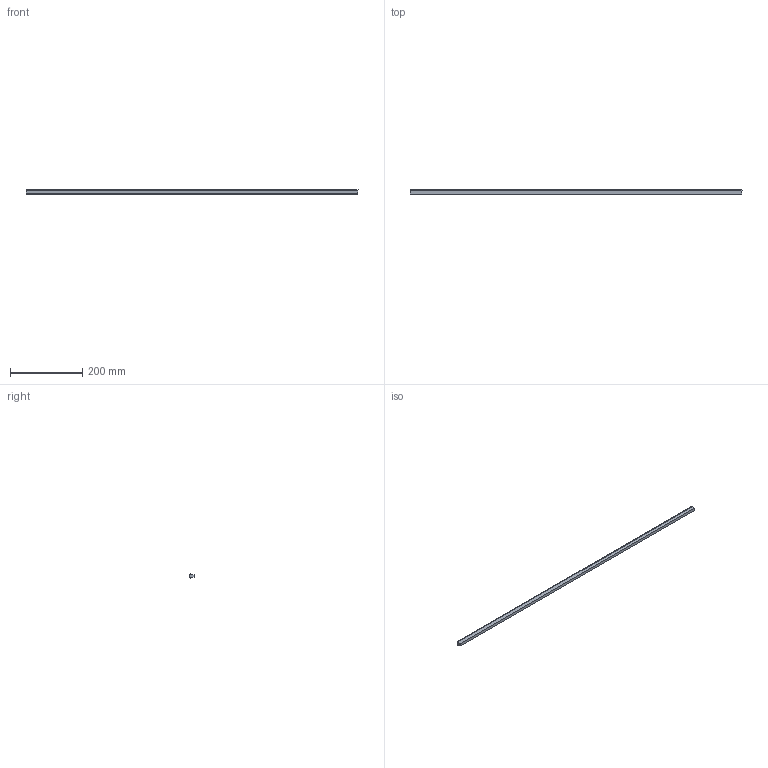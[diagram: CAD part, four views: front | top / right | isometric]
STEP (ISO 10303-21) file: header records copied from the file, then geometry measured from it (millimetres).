
FILE_DESCRIPTION(/* description */ (''),/* implementation_level */ '2;1');
FILE_NAME(/* name */ 'Pos0-Antislip-Rubber-0st_I',/* time_stamp */ '2024-08-06T13:37:43+02:00',/* author */ (''),/* organization */ (''),/* preprocessor_version */ 'ST-DEVELOPER v16.5',/* originating_system */ 'HiCAD 2024 2901.2 Build 361',/* authorisation */ '');
FILE_SCHEMA (('AUTOMOTIVE_DESIGN { 1 0 10303 214 1 1 1 1 }'));
Length unit declared in the file: millimetre
Products named in the file (1): Pos0-Antislip-Rubber-0st
Bounding box: 921.38 x 12 x 12 mm (x, y, z)
Volume: 92138 mm3; surface area: 42267.3 mm2
Topology: 1 solids, 1 shells, 10 faces, 24 edges, 16 vertices
Faces by surface type: plane 10
Entity records: 546 total; most frequent: CARTESIAN_POINT 50, PRESENTATION_STYLE_ASSIGNMENT 49, COLOUR_RGB 49, DRAUGHTING_PRE_DEFINED_CURVE_FONT 48, CURVE_STYLE 48, OVER_RIDING_STYLED_ITEM 48, ORIENTED_EDGE 48, DIRECTION 44
